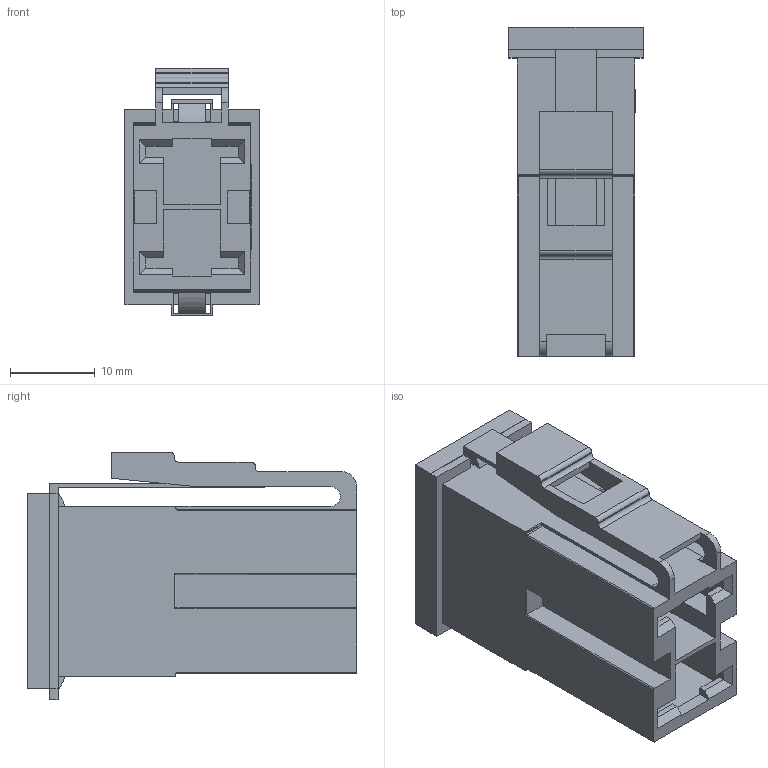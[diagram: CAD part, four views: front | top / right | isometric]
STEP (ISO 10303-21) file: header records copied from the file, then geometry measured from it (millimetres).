
FILE_DESCRIPTION(/* description */ (''),/* implementation_level */ '2;1');
FILE_NAME(/* name */ 'C:\Users\Hani\Desktop\work\TFLP\TFLP.stp',/* time_stamp */ '2021-10-31T14:12:15-07:00',/* author */ ('Hani'),/* organization */ (''),/* preprocessor_version */ 'ST-DEVELOPER v17',/* originating_system */ 'Autodesk Inventor 2019',/* authorisation */ '');
FILE_SCHEMA (('AUTOMOTIVE_DESIGN { 1 0 10303 214 3 1 1 }'));
Length unit declared in the file: inch
Products named in the file (1): TFLP
Bounding box: 15.8 x 38.83 x 29.15 mm (x, y, z)
Volume: 3153.2 mm3; surface area: 7983.8 mm2
Topology: 2 solids, 2 shells, 314 faces, 881 edges, 574 vertices
Faces by surface type: plane 217, bspline 67, cylinder 26, torus 4
Entity records: 10603 total; most frequent: CARTESIAN_POINT 2865, ORIENTED_EDGE 1762, DIRECTION 1291, EDGE_CURVE 881, LINE 691, VECTOR 691, VERTEX_POINT 574, EDGE_LOOP 333
